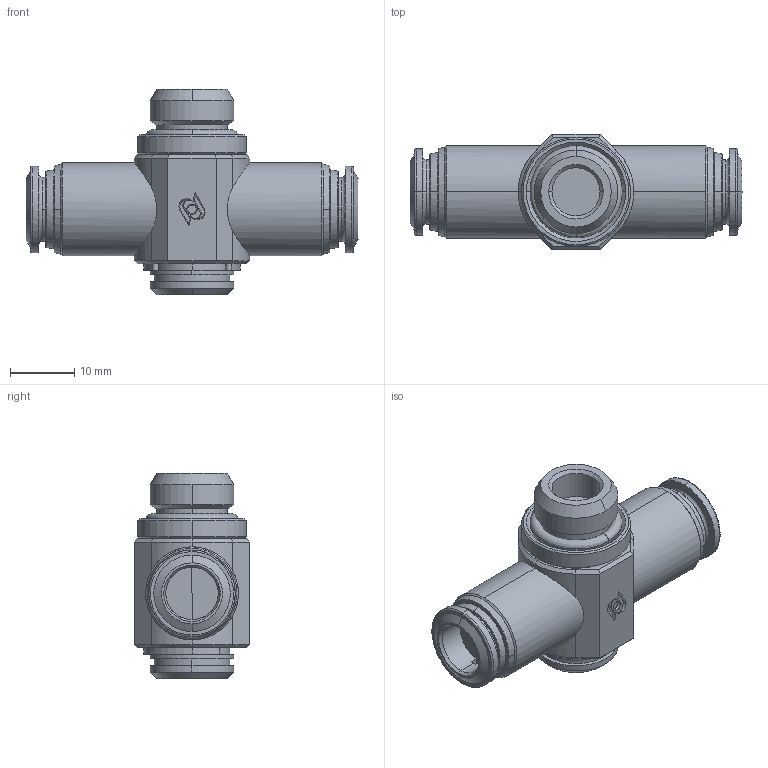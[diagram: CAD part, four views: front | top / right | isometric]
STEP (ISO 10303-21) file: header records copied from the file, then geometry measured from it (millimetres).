
FILE_DESCRIPTION (( 'STEP AP203' ), '1' );
FILE_NAME ('5756000006A.STEP', '2019-05-20T06:46:13', ( '' ), ( '' ), 'SwSTEP 2.0', 'SolidWorks 2016', '' );
FILE_SCHEMA (( 'CONFIG_CONTROL_DESIGN' ));
Length unit declared in the file: millimetre
Products named in the file (1): 5756000006A
Bounding box: 51.8 x 18 x 32 mm (x, y, z)
Volume: 11204.1 mm3; surface area: 5026.1 mm2
Topology: 2 solids, 2 shells, 231 faces, 594 edges, 384 vertices
Faces by surface type: plane 81, cone 72, cylinder 54, bspline 24
Entity records: 9716 total; most frequent: CARTESIAN_POINT 4285, ORIENTED_EDGE 1184, DIRECTION 1033, EDGE_CURVE 592, AXIS2_PLACEMENT_3D 394, VERTEX_POINT 384, EDGE_LOOP 262, VECTOR 245
